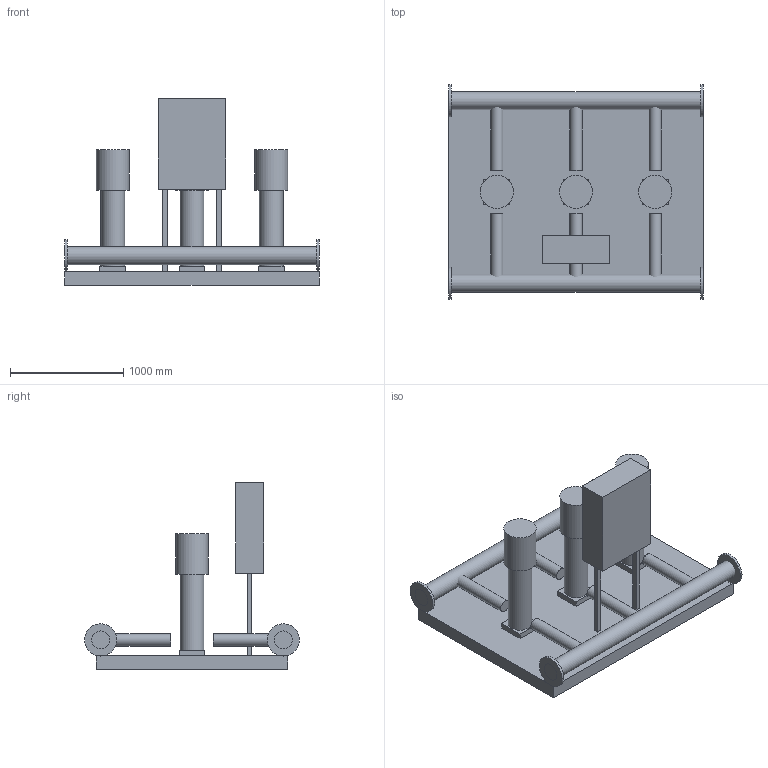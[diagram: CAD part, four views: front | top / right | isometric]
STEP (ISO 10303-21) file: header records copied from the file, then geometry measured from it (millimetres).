
FILE_DESCRIPTION(('Open CASCADE Model'),'2;1');
FILE_NAME('Open CASCADE Shape Model','2026-10-21T15:05:53',('Author'),( 'Open CASCADE'),'Open CASCADE STEP processor 7.9','Open CASCADE 7.9' ,'Unknown');
FILE_SCHEMA(('AUTOMOTIVE_DESIGN { 1 0 10303 214 1 1 1 1 }'));
Length unit declared in the file: millimetre
Products named in the file (26): Ð£ÐÐÐ_ÐÐ ÐÐÐÐ¬_3_CDM_65_1; 000_Ð Ð°Ð¼Ð° (Ð¾ÑÐ½Ð¾Ð²Ð°Ð½Ð¸Ðµ); 001_ÐÐ¾Ð»Ð»ÐµÐºÑÐ¾Ñ 
Ð²ÑÐ°ÑÑÐ²Ð°ÑÑÐ¸Ð¹; 002_ÐÐ¾Ð»Ð»ÐµÐºÑÐ¾Ñ 
Ð²ÑÐ°ÑÑÐ²Ð°ÑÑÐ¸Ð¹ â 
ÑÐ»Ð°Ð½ÐµÑ ÐÑ150; 003_ÐÐ¾Ð»Ð»ÐµÐºÑÐ¾Ñ 
Ð²ÑÐ°ÑÑÐ²Ð°ÑÑÐ¸Ð¹ â 
ÑÐ»Ð°Ð½ÐµÑ ÐÑ150; 004_ÐÐ¾Ð»Ð»ÐµÐºÑÐ¾Ñ 
Ð½Ð°Ð¿Ð¾ÑÐ½ÑÐ¹; 005_ÐÐ¾Ð»Ð»ÐµÐºÑÐ¾Ñ 
Ð½Ð°Ð¿Ð¾ÑÐ½ÑÐ¹ â ÑÐ»Ð°Ð½ÐµÑ 
ÐÑ150; 006_ÐÐ¾Ð»Ð»ÐµÐºÑÐ¾Ñ 
Ð½Ð°Ð¿Ð¾ÑÐ½ÑÐ¹ â ÑÐ»Ð°Ð½ÐµÑ 
ÐÑ150; 007_ÐÐ°ÑÐ¾Ñ 1 â Ð¾Ð¿Ð¾ÑÐ°; 008_ÐÐ°ÑÐ¾Ñ 1 â 
Ð³Ð¸Ð´ÑÐ¾ÑÐ°ÑÑÑ; 009_ÐÐ°ÑÐ¾Ñ 1 â Ð´Ð²Ð¸Ð³Ð°ÑÐµÐ»Ñ 
5.5 ÐºÐÑ; 010_ÐÐ°ÑÐ¾Ñ 1 â Ð¾Ð±Ð²ÑÐ·ÐºÐ° 
Ð²ÑÐ¾Ð´ ÐÑ100; 011_ÐÐ°ÑÐ¾Ñ 1 â Ð¾Ð±Ð²ÑÐ·ÐºÐ° 
Ð²ÑÑÐ¾Ð´ ÐÑ100; 012_ÐÐ°ÑÐ¾Ñ 2 â Ð¾Ð¿Ð¾ÑÐ°; 013_ÐÐ°ÑÐ¾Ñ 2 â 
Ð³Ð¸Ð´ÑÐ¾ÑÐ°ÑÑÑ; 014_ÐÐ°ÑÐ¾Ñ 2 â Ð´Ð²Ð¸Ð³Ð°ÑÐµÐ»Ñ 
5.5 ÐºÐÑ; 015_ÐÐ°ÑÐ¾Ñ 2 â Ð¾Ð±Ð²ÑÐ·ÐºÐ° 
Ð²ÑÐ¾Ð´ ÐÑ100; 016_ÐÐ°ÑÐ¾Ñ 2 â Ð¾Ð±Ð²ÑÐ·ÐºÐ° 
Ð²ÑÑÐ¾Ð´ ÐÑ100; 017_ÐÐ°ÑÐ¾Ñ 3 â Ð¾Ð¿Ð¾ÑÐ°; 018_ÐÐ°ÑÐ¾Ñ 3 â 
Ð³Ð¸Ð´ÑÐ¾ÑÐ°ÑÑÑ; 019_ÐÐ°ÑÐ¾Ñ 3 â Ð´Ð²Ð¸Ð³Ð°ÑÐµÐ»Ñ 
5.5 ÐºÐÑ; 020_ÐÐ°ÑÐ¾Ñ 3 â Ð¾Ð±Ð²ÑÐ·ÐºÐ° 
Ð²ÑÐ¾Ð´ ÐÑ100; 021_ÐÐ°ÑÐ¾Ñ 3 â Ð¾Ð±Ð²ÑÐ·ÐºÐ° 
Ð²ÑÑÐ¾Ð´ ÐÑ100; 022_Ð¨ÐºÐ°Ñ ÑÐ¿ÑÐ°Ð²Ð»ÐµÐ½Ð¸Ñ; 023_Ð¡ÑÐ¾Ð¹ÐºÐ° ÑÐºÐ°ÑÐ°; 024_Ð¡ÑÐ¾Ð¹ÐºÐ° ÑÐºÐ°ÑÐ°
Assembly tree (25 placements, depth 2):
  Ð£ÐÐÐ_ÐÐ ÐÐÐÐ¬_3_CDM_65_1
    000_Ð Ð°Ð¼Ð° (Ð¾ÑÐ½Ð¾Ð²Ð°Ð½Ð¸Ðµ)
    001_ÐÐ¾Ð»Ð»ÐµÐºÑÐ¾Ñ 
Ð²ÑÐ°ÑÑÐ²Ð°ÑÑÐ¸Ð¹
    002_ÐÐ¾Ð»Ð»ÐµÐºÑÐ¾Ñ 
Ð²ÑÐ°ÑÑÐ²Ð°ÑÑÐ¸Ð¹ â 
ÑÐ»Ð°Ð½ÐµÑ ÐÑ150
    003_ÐÐ¾Ð»Ð»ÐµÐºÑÐ¾Ñ 
Ð²ÑÐ°ÑÑÐ²Ð°ÑÑÐ¸Ð¹ â 
ÑÐ»Ð°Ð½ÐµÑ ÐÑ150
    004_ÐÐ¾Ð»Ð»ÐµÐºÑÐ¾Ñ 
Ð½Ð°Ð¿Ð¾ÑÐ½ÑÐ¹
    005_ÐÐ¾Ð»Ð»ÐµÐºÑÐ¾Ñ 
Ð½Ð°Ð¿Ð¾ÑÐ½ÑÐ¹ â ÑÐ»Ð°Ð½ÐµÑ 
ÐÑ150
    006_ÐÐ¾Ð»Ð»ÐµÐºÑÐ¾Ñ 
Ð½Ð°Ð¿Ð¾ÑÐ½ÑÐ¹ â ÑÐ»Ð°Ð½ÐµÑ 
ÐÑ150
    007_ÐÐ°ÑÐ¾Ñ 1 â Ð¾Ð¿Ð¾ÑÐ°
    008_ÐÐ°ÑÐ¾Ñ 1 â 
Ð³Ð¸Ð´ÑÐ¾ÑÐ°ÑÑÑ
    009_ÐÐ°ÑÐ¾Ñ 1 â Ð´Ð²Ð¸Ð³Ð°ÑÐµÐ»Ñ 
5.5 ÐºÐÑ
    010_ÐÐ°ÑÐ¾Ñ 1 â Ð¾Ð±Ð²ÑÐ·ÐºÐ° 
Ð²ÑÐ¾Ð´ ÐÑ100
    011_ÐÐ°ÑÐ¾Ñ 1 â Ð¾Ð±Ð²ÑÐ·ÐºÐ° 
Ð²ÑÑÐ¾Ð´ ÐÑ100
    012_ÐÐ°ÑÐ¾Ñ 2 â Ð¾Ð¿Ð¾ÑÐ°
    013_ÐÐ°ÑÐ¾Ñ 2 â 
Ð³Ð¸Ð´ÑÐ¾ÑÐ°ÑÑÑ
    014_ÐÐ°ÑÐ¾Ñ 2 â Ð´Ð²Ð¸Ð³Ð°ÑÐµÐ»Ñ 
5.5 ÐºÐÑ
    015_ÐÐ°ÑÐ¾Ñ 2 â Ð¾Ð±Ð²ÑÐ·ÐºÐ° 
Ð²ÑÐ¾Ð´ ÐÑ100
    016_ÐÐ°ÑÐ¾Ñ 2 â Ð¾Ð±Ð²ÑÐ·ÐºÐ° 
Ð²ÑÑÐ¾Ð´ ÐÑ100
    017_ÐÐ°ÑÐ¾Ñ 3 â Ð¾Ð¿Ð¾ÑÐ°
    018_ÐÐ°ÑÐ¾Ñ 3 â 
Ð³Ð¸Ð´ÑÐ¾ÑÐ°ÑÑÑ
    019_ÐÐ°ÑÐ¾Ñ 3 â Ð´Ð²Ð¸Ð³Ð°ÑÐµÐ»Ñ 
5.5 ÐºÐÑ
    020_ÐÐ°ÑÐ¾Ñ 3 â Ð¾Ð±Ð²ÑÐ·ÐºÐ° 
Ð²ÑÐ¾Ð´ ÐÑ100
    021_ÐÐ°ÑÐ¾Ñ 3 â Ð¾Ð±Ð²ÑÐ·ÐºÐ° 
Ð²ÑÑÐ¾Ð´ ÐÑ100
    022_Ð¨ÐºÐ°Ñ ÑÐ¿ÑÐ°Ð²Ð»ÐµÐ½Ð¸Ñ
    023_Ð¡ÑÐ¾Ð¹ÐºÐ° ÑÐºÐ°ÑÐ°
    024_Ð¡ÑÐ¾Ð¹ÐºÐ° ÑÐºÐ°ÑÐ°
Bounding box: 2250 x 1900 x 1650 mm (x, y, z)
Volume: 857376264.3 mm3; surface area: 18117142.7 mm2
Topology: 25 solids, 25 shells, 96 faces, 138 edges, 92 vertices
Faces by surface type: plane 78, cylinder 18
Full cylindrical faces by diameter (mm): 108 x6, 159 x2, 209 x3, 285 x4, 290.8 x3
Entity records: 4470 total; most frequent: DIRECTION 694, CARTESIAN_POINT 628, LINE 342, VECTOR 342, ORIENTED_EDGE 276, PCURVE 276, DEFINITIONAL_REPRESENTATION 276, AXIS2_PLACEMENT_3D 158
